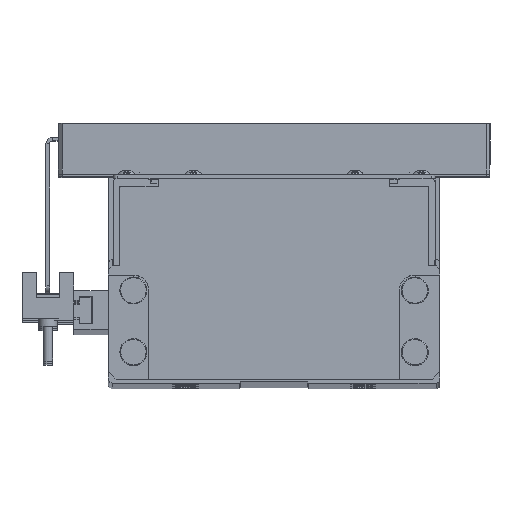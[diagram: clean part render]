
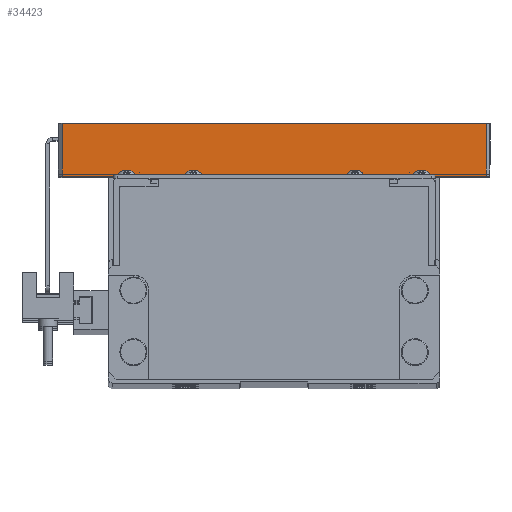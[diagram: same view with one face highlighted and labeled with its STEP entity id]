
A CAD part, top view. The second image highlights one B-rep face of the part: STEP entity #34423.
In plain terms, the highlighted planar face has unit normal (0, 0, 1).
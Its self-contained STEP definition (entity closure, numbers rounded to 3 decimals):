
#860 = VERTEX_POINT ( 'NONE', #40585 ) ;
#2333 = FACE_OUTER_BOUND ( 'NONE', #5974, .T. ) ;
#5974 = EDGE_LOOP ( 'NONE', ( #45507, #93851, #15255, #61510 ) ) ;
#7923 = DIRECTION ( 'NONE',  ( 1., 0., 0. ) ) ;
#10093 = VECTOR ( 'NONE', #39775, 1000. ) ;
#10805 = DIRECTION ( 'NONE',  ( 0., 1., 0. ) ) ;
#11441 = EDGE_CURVE ( 'NONE', #25357, #27871, #17514, .T. ) ;
#15255 = ORIENTED_EDGE ( 'NONE', *, *, #25610, .F. ) ;
#16518 = LINE ( 'NONE', #46029, #86860 ) ;
#17514 = LINE ( 'NONE', #62779, #29991 ) ;
#25357 = VERTEX_POINT ( 'NONE', #49692 ) ;
#25610 = EDGE_CURVE ( 'NONE', #25357, #89730, #16518, .T. ) ;
#27871 = VERTEX_POINT ( 'NONE', #41529 ) ;
#29991 = VECTOR ( 'NONE', #47534, 1000. ) ;
#33342 = PLANE ( 'NONE',  #47446 ) ;
#34120 = CARTESIAN_POINT ( 'NONE',  ( 55., 68., 66.582 ) ) ;
#34423 = ADVANCED_FACE ( 'NONE', ( #2333 ), #33342, .T. ) ;
#38755 = CARTESIAN_POINT ( 'NONE',  ( -56., 54.3, 66.582 ) ) ;
#39775 = DIRECTION ( 'NONE',  ( -1., 0., 0. ) ) ;
#40585 = CARTESIAN_POINT ( 'NONE',  ( 55., 54.3, 66.582 ) ) ;
#41529 = CARTESIAN_POINT ( 'NONE',  ( -55., 54.3, 66.582 ) ) ;
#42084 = EDGE_CURVE ( 'NONE', #860, #89730, #49469, .T. ) ;
#45507 = ORIENTED_EDGE ( 'NONE', *, *, #80285, .F. ) ;
#46029 = CARTESIAN_POINT ( 'NONE',  ( 56., 68., 66.582 ) ) ;
#46535 = DIRECTION ( 'NONE',  ( 1., 0., 0. ) ) ;
#47446 = AXIS2_PLACEMENT_3D ( 'NONE', #92799, #77535, #7923 ) ;
#47534 = DIRECTION ( 'NONE',  ( 0., -1., 0. ) ) ;
#49469 = LINE ( 'NONE', #81447, #57832 ) ;
#49692 = CARTESIAN_POINT ( 'NONE',  ( -55., 68., 66.582 ) ) ;
#57832 = VECTOR ( 'NONE', #10805, 1000. ) ;
#61510 = ORIENTED_EDGE ( 'NONE', *, *, #11441, .T. ) ;
#62779 = CARTESIAN_POINT ( 'NONE',  ( -55., 54.3, 66.582 ) ) ;
#77535 = DIRECTION ( 'NONE',  ( 0., 0., 1. ) ) ;
#80285 = EDGE_CURVE ( 'NONE', #860, #27871, #92607, .T. ) ;
#81447 = CARTESIAN_POINT ( 'NONE',  ( 55., 68., 66.582 ) ) ;
#86860 = VECTOR ( 'NONE', #46535, 1000. ) ;
#89730 = VERTEX_POINT ( 'NONE', #34120 ) ;
#92607 = LINE ( 'NONE', #38755, #10093 ) ;
#92799 = CARTESIAN_POINT ( 'NONE',  ( 0., 68., 66.582 ) ) ;
#93851 = ORIENTED_EDGE ( 'NONE', *, *, #42084, .T. ) ;
